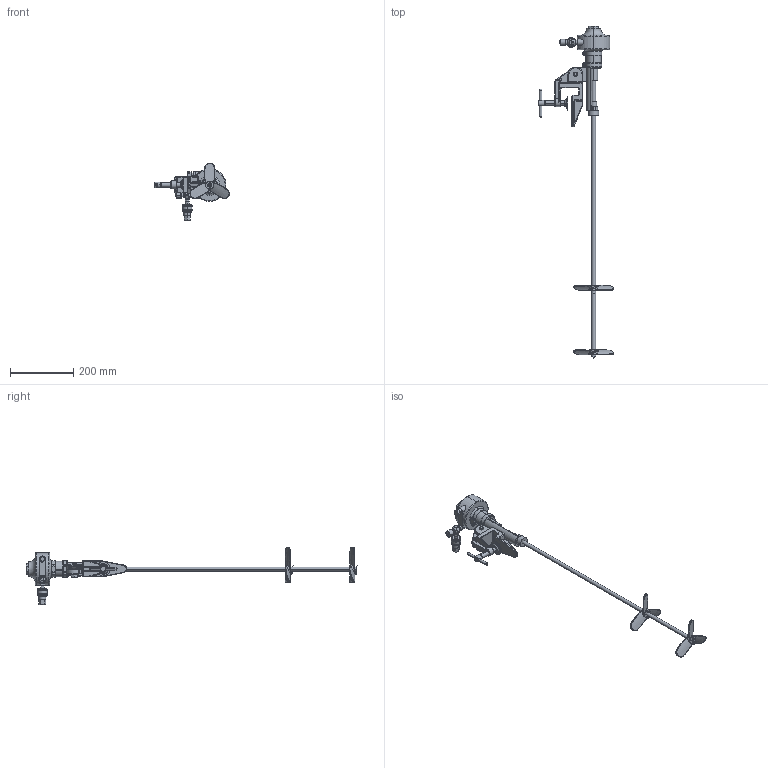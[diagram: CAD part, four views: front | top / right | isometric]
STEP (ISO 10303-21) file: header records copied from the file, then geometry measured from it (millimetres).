
FILE_DESCRIPTION((''),'2;1');
FILE_NAME('225831-EN-ZAE_PRT','2020-03-05T07:34:41',('qusrh3'),(''),'CREO PARAMETRIC BY PTC INC, 2019030','CREO PARAMETRIC BY PTC INC, 2019030','');
FILE_SCHEMA(('CONFIG_CONTROL_DESIGN'));
Length unit declared in the file: inch
Products named in the file (1): 225831-EN-ZAE_PRT
Bounding box: 235.02 x 1046.05 x 181.92 mm (x, y, z)
Surface area: 234474.8 mm2 (no closed solid volume)
Topology: 0 solids, 68 shells, 626 faces, 2214 edges, 1622 vertices
Faces by surface type: cylinder 222, plane 189, bspline 66, torus 62, cone 60, sphere 27
Entity records: 30608 total; most frequent: CARTESIAN_POINT 13264, ORIENTED_EDGE 3392, DIRECTION 3370, EDGE_CURVE 2209, VERTEX_POINT 1622, AXIS2_PLACEMENT_3D 1362, CIRCLE 802, B_SPLINE_CURVE_WITH_KNOTS 761
